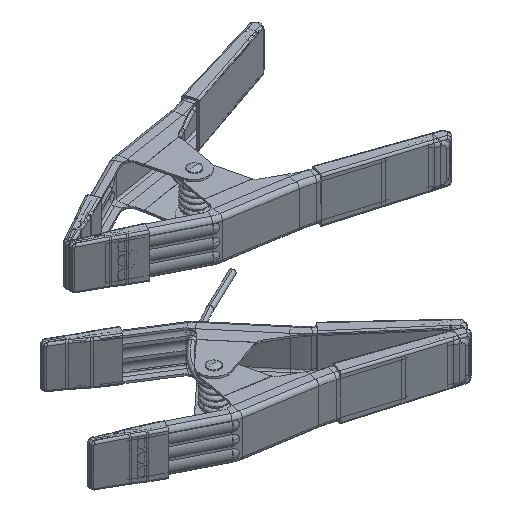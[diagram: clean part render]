
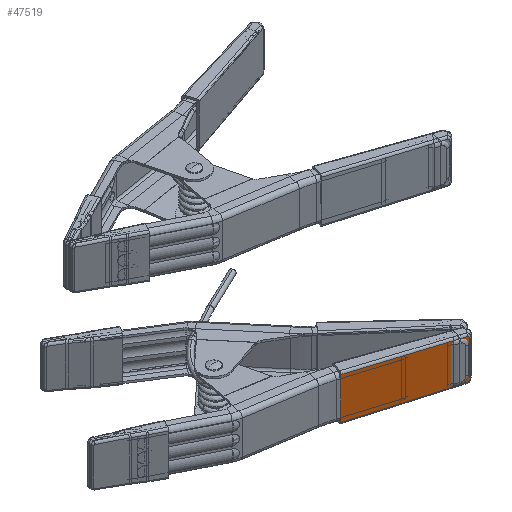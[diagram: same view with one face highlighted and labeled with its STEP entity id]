
A CAD part, isometric view. The second image highlights one B-rep face of the part: STEP entity #47519.
In plain terms, the highlighted planar face has unit normal (-0.29, -0.957, 0) as drawn and (-0.29, 0.957, 0) by its records, which use the part's own axes.
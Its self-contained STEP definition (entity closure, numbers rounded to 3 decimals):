
#45726=CARTESIAN_POINT('',(33.15,53.711,
-15.948));
#45743=CARTESIAN_POINT('',(33.15,53.711,15.948));
#45995=DIRECTION('',(-0.957,-0.29,0.009));
#45996=VECTOR('',#45995,78.018);
#45997=CARTESIAN_POINT('',(107.813,76.33,15.268));
#45998=LINE('',#45997,#45996);
#46002=DIRECTION('',(0.,0.,-1.));
#46003=VECTOR('',#46002,31.897);
#46004=CARTESIAN_POINT('',(33.15,53.711,15.948));
#46005=LINE('',#46004,#46003);
#46009=DIRECTION('',(0.957,0.29,0.009));
#46010=VECTOR('',#46009,78.018);
#46011=CARTESIAN_POINT('',(33.15,53.711,
-15.948));
#46012=LINE('',#46011,#46010);
#46016=CARTESIAN_POINT('',(107.813,76.33,
-15.268));
#46017=CARTESIAN_POINT('',(107.866,76.346,
-15.267));
#46018=CARTESIAN_POINT('',(107.971,76.378,
-15.263));
#46019=CARTESIAN_POINT('',(108.13,76.426,
-15.242));
#46020=CARTESIAN_POINT('',(108.265,76.467,
-15.205));
#46021=CARTESIAN_POINT('',(108.37,76.498,
-15.15));
#46022=CARTESIAN_POINT('',(108.48,76.532,
-15.058));
#46023=CARTESIAN_POINT('',(108.607,76.57,
-14.897));
#46024=CARTESIAN_POINT('',(108.728,76.607,
-14.672));
#46025=CARTESIAN_POINT('',(108.835,76.639,
-14.388));
#46026=CARTESIAN_POINT('',(108.92,76.665,
-14.056));
#46027=CARTESIAN_POINT('',(108.983,76.684,
-13.675));
#46028=CARTESIAN_POINT('',(109.022,76.696,
-13.246));
#46029=CARTESIAN_POINT('',(109.031,76.699,
-12.93));
#46030=CARTESIAN_POINT('',(109.031,76.699,
-12.764));
#46035=DIRECTION('',(0.,0.,1.));
#46036=VECTOR('',#46035,25.527);
#46037=CARTESIAN_POINT('',(109.031,76.699,
-12.764));
#46038=LINE('',#46037,#46036);
#46042=CARTESIAN_POINT('',(109.031,76.699,12.764));
#46043=CARTESIAN_POINT('',(109.031,76.699,12.945));
#46044=CARTESIAN_POINT('',(109.02,76.696,13.29));
#46045=CARTESIAN_POINT('',(108.974,76.682,13.75));
#46046=CARTESIAN_POINT('',(108.9,76.659,14.153));
#46047=CARTESIAN_POINT('',(108.798,76.628,14.5));
#46048=CARTESIAN_POINT('',(108.675,76.591,14.783));
#46049=CARTESIAN_POINT('',(108.538,76.549,14.996));
#46050=CARTESIAN_POINT('',(108.406,76.509,15.125));
#46051=CARTESIAN_POINT('',(108.301,76.478,15.19));
#46052=CARTESIAN_POINT('',(108.163,76.436,15.236));
#46053=CARTESIAN_POINT('',(107.987,76.383,15.262));
#46054=CARTESIAN_POINT('',(107.872,76.348,15.267));
#46055=CARTESIAN_POINT('',(107.813,76.33,15.268));
#46266=VERTEX_POINT('',#45743);
#46267=CARTESIAN_POINT('',(107.813,76.33,15.268));
#46268=VERTEX_POINT('',#46267);
#46272=VERTEX_POINT('',#46042);
#46275=CARTESIAN_POINT('',(109.031,76.699,
-12.764));
#46276=VERTEX_POINT('',#46275);
#46278=VERTEX_POINT('',#46016);
#46279=VERTEX_POINT('',#45726);
#47502=CARTESIAN_POINT('',(33.15,53.711,16.75));
#47503=DIRECTION('',(-0.29,0.957,0.));
#47504=DIRECTION('',(0.957,0.29,0.));
#47505=AXIS2_PLACEMENT_3D('',#47502,#47503,#47504);
#47506=PLANE('',#47505);
#47507=ORIENTED_EDGE('',*,*,#47494,.T.);
#47508=ORIENTED_EDGE('',*,*,#46326,.T.);
#47510=ORIENTED_EDGE('',*,*,#47509,.T.);
#47512=ORIENTED_EDGE('',*,*,#47511,.T.);
#47514=ORIENTED_EDGE('',*,*,#47513,.T.);
#47516=ORIENTED_EDGE('',*,*,#47515,.T.);
#47517=EDGE_LOOP('',(#47507,#47508,#47510,#47512,#47514,#47516));
#47518=FACE_OUTER_BOUND('',#47517,.F.);
#46031=B_SPLINE_CURVE_WITH_KNOTS('',3,(#46016,#46017,#46018,#46019,#46020,
#46021,#46022,#46023,#46024,#46025,#46026,#46027,#46028,#46029,#46030),
.UNSPECIFIED.,.F.,.F.,(4,1,1,1,1,1,1,1,1,1,1,1,4),(0.,0.083,
0.167,0.25,0.333,0.417,0.5,
0.583,0.667,0.75,0.833,0.917,
1.),.UNSPECIFIED.);
#46056=B_SPLINE_CURVE_WITH_KNOTS('',3,(#46042,#46043,#46044,#46045,#46046,
#46047,#46048,#46049,#46050,#46051,#46052,#46053,#46054,#46055),.UNSPECIFIED.,
.F.,.F.,(4,1,1,1,1,1,1,1,1,1,1,4),(0.,0.091,0.182,
0.273,0.364,0.455,0.545,
0.636,0.727,0.818,0.909,1.),
.UNSPECIFIED.);
#46326=EDGE_CURVE('',#46266,#46279,#46005,.T.);
#47494=EDGE_CURVE('',#46268,#46266,#45998,.T.);
#47509=EDGE_CURVE('',#46279,#46278,#46012,.T.);
#47511=EDGE_CURVE('',#46278,#46276,#46031,.T.);
#47513=EDGE_CURVE('',#46276,#46272,#46038,.T.);
#47515=EDGE_CURVE('',#46272,#46268,#46056,.T.);
#47519=ADVANCED_FACE('',(#47518),#47506,.T.);
